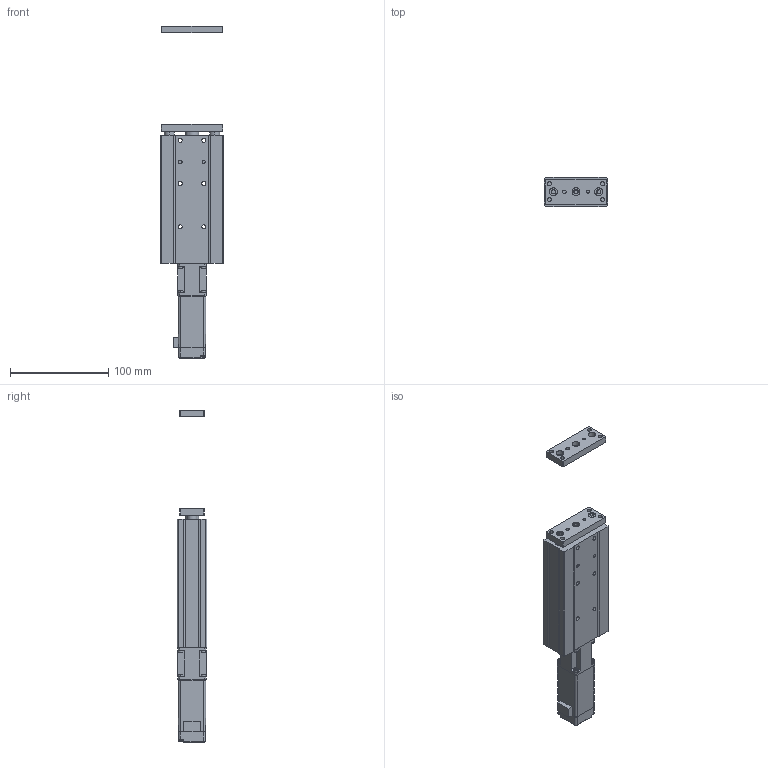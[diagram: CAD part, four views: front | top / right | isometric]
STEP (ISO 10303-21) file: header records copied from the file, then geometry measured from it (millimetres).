
FILE_DESCRIPTION (( 'STEP AP203' ), '1' );
FILE_NAME ('CSSG16-xx-100-xx-CSO-xx-xx.STEP', '2024-10-18T07:03:32', ( 'Windows User' ), ( 'P R C' ), 'SwSTEP 2.0', 'SolidWorks 2018', '' );
FILE_SCHEMA (( 'CONFIG_CONTROL_DESIGN' ));
Length unit declared in the file: millimetre
Products named in the file (10): 复件 SVS-WS-RB24031-P003  导杆（ST=100）^SSG16（ST=100）外形尺寸装配体; 复件 (2) 28闭环步进电机-客用3D^SSG16（ST=100）外形尺寸装配体; 复件 内六角杯头螺钉M2.5-8^SSG16（ST=100）外形尺寸装配体; 复件 SVS-WS-RB24031-P002 空心圆杆 （ST=100）^SSG16（ST=100）外形尺寸装配体; 复件 内六角杯头螺钉M4-8^SSG16（ST=100）外形尺寸装配体; 复件 SVS-WS-RB24031-P006  安装板^SSG16（ST=100）外形尺寸装配体; 复件 SVS-WS-RB24031-P001-03  FRAME （ST=100）^SSG16（ST=100）外形尺寸装配体; 复件 SVS-WS-RB24031-P005  电机座^SSG16（ST=100）外形尺寸装配体; 复件 内六角杯头螺钉M2.5-6^SSG16（ST=100）外形尺寸装配体; CSSG16-xx-100-xx-CSO-xx-xx
Assembly tree (19 placements, depth 2):
  CSSG16-xx-100-xx-CSO-xx-xx
    复件 SVS-WS-RB24031-P001-03  FRAME （ST=100）^SSG16（ST=100）外形尺寸装配体
    复件 SVS-WS-RB24031-P002 空心圆杆 （ST=100）^SSG16（ST=100）外形尺寸装配体
    复件 SVS-WS-RB24031-P003  导杆（ST=100）^SSG16（ST=100）外形尺寸装配体  x2
    复件 SVS-WS-RB24031-P005  电机座^SSG16（ST=100）外形尺寸装配体
    复件 SVS-WS-RB24031-P006  安装板^SSG16（ST=100）外形尺寸装配体  x2
    复件 (2) 28闭环步进电机-客用3D^SSG16（ST=100）外形尺寸装配体
    复件 内六角杯头螺钉M2.5-8^SSG16（ST=100）外形尺寸装配体  x4
    复件 内六角杯头螺钉M4-8^SSG16（ST=100）外形尺寸装配体  x3
    复件 内六角杯头螺钉M2.5-6^SSG16（ST=100）外形尺寸装配体  x4
Bounding box: 64 x 30 x 337.1 mm (x, y, z)
Volume: 333725.7 mm3; surface area: 59385.1 mm2
Topology: 21 solids, 21 shells, 563 faces, 1322 edges, 839 vertices
Faces by surface type: plane 258, cylinder 196, cone 55, torus 46, bspline 8
Entity records: 12255 total; most frequent: CARTESIAN_POINT 2225, DIRECTION 1916, ORIENTED_EDGE 1726, EDGE_CURVE 863, AXIS2_PLACEMENT_3D 717, VERTEX_POINT 557, LINE 482, VECTOR 482
